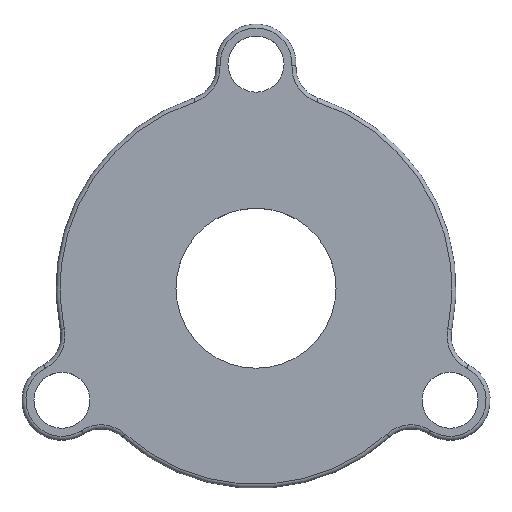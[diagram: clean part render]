
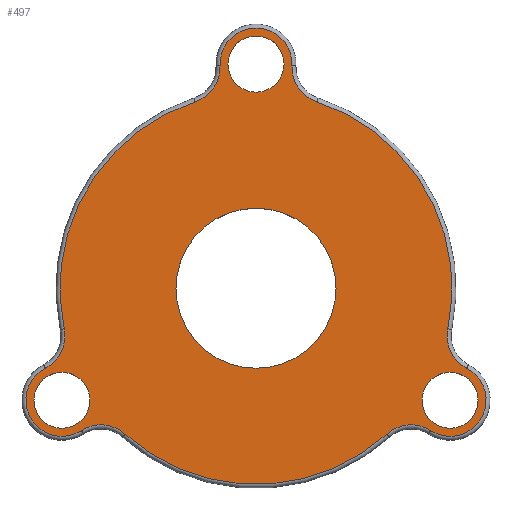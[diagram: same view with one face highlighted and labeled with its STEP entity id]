
A CAD part, top view. The second image highlights one B-rep face of the part: STEP entity #497.
In plain terms, the highlighted planar face has unit normal (0, 0, 1).
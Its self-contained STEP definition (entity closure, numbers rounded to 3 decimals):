
#34=PLANE('',#572);
#75=VERTEX_POINT('',#772);
#77=VERTEX_POINT('',#776);
#78=VERTEX_POINT('',#778);
#81=VERTEX_POINT('',#785);
#82=VERTEX_POINT('',#790);
#85=VERTEX_POINT('',#797);
#86=VERTEX_POINT('',#802);
#89=VERTEX_POINT('',#809);
#90=VERTEX_POINT('',#814);
#93=VERTEX_POINT('',#821);
#94=VERTEX_POINT('',#826);
#97=VERTEX_POINT('',#833);
#98=VERTEX_POINT('',#838);
#107=VERTEX_POINT('',#871);
#108=VERTEX_POINT('',#873);
#109=VERTEX_POINT('',#875);
#121=CIRCLE('',#513,5.);
#123=CIRCLE('',#516,2.25);
#127=CIRCLE('',#521,12.25);
#131=CIRCLE('',#526,2.25);
#133=CIRCLE('',#529,2.25);
#137=CIRCLE('',#534,2.25);
#139=CIRCLE('',#537,2.25);
#143=CIRCLE('',#542,12.25);
#145=CIRCLE('',#545,2.25);
#149=CIRCLE('',#550,2.25);
#151=CIRCLE('',#553,12.25);
#155=CIRCLE('',#558,2.25);
#157=CIRCLE('',#561,2.25);
#163=CIRCLE('',#573,1.75);
#164=CIRCLE('',#574,1.75);
#165=CIRCLE('',#575,1.75);
#177=EDGE_CURVE('',#75,#75,#121,.T.);
#179=EDGE_CURVE('',#77,#78,#123,.T.);
#183=EDGE_CURVE('',#81,#77,#127,.T.);
#187=EDGE_CURVE('',#78,#82,#131,.T.);
#189=EDGE_CURVE('',#85,#81,#133,.T.);
#193=EDGE_CURVE('',#82,#86,#137,.T.);
#195=EDGE_CURVE('',#89,#85,#139,.T.);
#199=EDGE_CURVE('',#86,#90,#143,.T.);
#201=EDGE_CURVE('',#93,#89,#145,.T.);
#205=EDGE_CURVE('',#90,#94,#149,.T.);
#207=EDGE_CURVE('',#97,#93,#151,.T.);
#211=EDGE_CURVE('',#94,#98,#155,.T.);
#213=EDGE_CURVE('',#98,#97,#157,.T.);
#227=EDGE_CURVE('',#107,#107,#163,.T.);
#228=EDGE_CURVE('',#108,#108,#164,.T.);
#229=EDGE_CURVE('',#109,#109,#165,.T.);
#320=ORIENTED_EDGE('',*,*,#177,.T.);
#321=ORIENTED_EDGE('',*,*,#227,.T.);
#322=ORIENTED_EDGE('',*,*,#228,.T.);
#323=ORIENTED_EDGE('',*,*,#229,.T.);
#324=ORIENTED_EDGE('',*,*,#179,.F.);
#325=ORIENTED_EDGE('',*,*,#183,.F.);
#326=ORIENTED_EDGE('',*,*,#189,.F.);
#327=ORIENTED_EDGE('',*,*,#195,.F.);
#328=ORIENTED_EDGE('',*,*,#201,.F.);
#329=ORIENTED_EDGE('',*,*,#207,.F.);
#330=ORIENTED_EDGE('',*,*,#213,.F.);
#331=ORIENTED_EDGE('',*,*,#211,.F.);
#332=ORIENTED_EDGE('',*,*,#205,.F.);
#333=ORIENTED_EDGE('',*,*,#199,.F.);
#334=ORIENTED_EDGE('',*,*,#193,.F.);
#335=ORIENTED_EDGE('',*,*,#187,.F.);
#406=EDGE_LOOP('',(#320));
#407=EDGE_LOOP('',(#321));
#408=EDGE_LOOP('',(#322));
#409=EDGE_LOOP('',(#323));
#410=EDGE_LOOP('',(#324,#325,#326,#327,#328,#329,#330,#331,#332,#333,#334,
#335));
#452=FACE_BOUND('',#406,.T.);
#453=FACE_BOUND('',#407,.T.);
#454=FACE_BOUND('',#408,.T.);
#455=FACE_BOUND('',#409,.T.);
#456=FACE_BOUND('',#410,.T.);
#497=ADVANCED_FACE('',(#452,#453,#454,#455,#456),#34,.T.);
#513=AXIS2_PLACEMENT_3D('',#771,#602,#603);
#516=AXIS2_PLACEMENT_3D('',#777,#607,#608);
#521=AXIS2_PLACEMENT_3D('',#786,#616,#617);
#526=AXIS2_PLACEMENT_3D('',#793,#625,#626);
#529=AXIS2_PLACEMENT_3D('',#798,#630,#631);
#534=AXIS2_PLACEMENT_3D('',#805,#639,#640);
#537=AXIS2_PLACEMENT_3D('',#810,#644,#645);
#542=AXIS2_PLACEMENT_3D('',#817,#653,#654);
#545=AXIS2_PLACEMENT_3D('',#822,#658,#659);
#550=AXIS2_PLACEMENT_3D('',#829,#667,#668);
#553=AXIS2_PLACEMENT_3D('',#834,#672,#673);
#558=AXIS2_PLACEMENT_3D('',#841,#681,#682);
#561=AXIS2_PLACEMENT_3D('',#844,#686,#687);
#572=AXIS2_PLACEMENT_3D('',#869,#715,$);
#573=AXIS2_PLACEMENT_3D('',#870,#716,#717);
#574=AXIS2_PLACEMENT_3D('',#872,#718,#719);
#575=AXIS2_PLACEMENT_3D('',#874,#720,#721);
#602=DIRECTION('',(0.,0.,-1.));
#603=DIRECTION('',(5.,0.,0.));
#607=DIRECTION('',(0.,0.,1.));
#608=DIRECTION('',(1.852,-1.278,0.));
#616=DIRECTION('',(0.,0.,-1.));
#617=DIRECTION('',(-10.609,6.125,0.));
#625=DIRECTION('',(0.,0.,-1.));
#626=DIRECTION('',(0.,2.25,0.));
#630=DIRECTION('',(0.,0.,1.));
#631=DIRECTION('',(2.033,-0.965,0.));
#639=DIRECTION('',(0.,0.,1.));
#640=DIRECTION('',(-1.852,-1.278,0.));
#644=DIRECTION('',(0.,0.,-1.));
#645=DIRECTION('',(-1.949,-1.125,0.));
#653=DIRECTION('',(0.,0.,-1.));
#654=DIRECTION('',(10.609,6.125,0.));
#658=DIRECTION('',(0.,0.,1.));
#659=DIRECTION('',(0.181,2.243,0.));
#667=DIRECTION('',(0.,0.,1.));
#668=DIRECTION('',(-2.033,-0.965,0.));
#672=DIRECTION('',(0.,0.,-1.));
#673=DIRECTION('',(0.,-12.25,0.));
#681=DIRECTION('',(0.,0.,-1.));
#682=DIRECTION('',(1.949,-1.125,0.));
#686=DIRECTION('',(0.,0.,1.));
#687=DIRECTION('',(-0.181,2.243,0.));
#715=DIRECTION('',(0.,0.,1.));
#716=DIRECTION('',(0.,0.,-1.));
#717=DIRECTION('',(1.75,0.,0.));
#718=DIRECTION('',(0.,0.,-1.));
#719=DIRECTION('',(-0.875,1.516,0.));
#720=DIRECTION('',(0.,0.,-1.));
#721=DIRECTION('',(-0.875,-1.516,0.));
#771=CARTESIAN_POINT('',(0.,0.,2.5));
#772=CARTESIAN_POINT('',(5.,0.,2.5));
#776=CARTESIAN_POINT('',(-3.797,11.647,2.5));
#777=CARTESIAN_POINT('',(-4.495,13.786,2.5));
#778=CARTESIAN_POINT('',(-2.247,13.893,2.5));
#785=CARTESIAN_POINT('',(-11.985,-2.535,2.5));
#786=CARTESIAN_POINT('',(0.,0.,2.5));
#790=CARTESIAN_POINT('',(2.247,13.893,2.5));
#793=CARTESIAN_POINT('',(0.,14.,2.5));
#797=CARTESIAN_POINT('',(-13.155,-5.,2.5));
#798=CARTESIAN_POINT('',(-14.186,-3.,2.5));
#802=CARTESIAN_POINT('',(3.797,11.647,2.5));
#805=CARTESIAN_POINT('',(4.495,13.786,2.5));
#809=CARTESIAN_POINT('',(-10.908,-8.893,2.5));
#810=CARTESIAN_POINT('',(-12.124,-7.,2.5));
#814=CARTESIAN_POINT('',(11.985,-2.535,2.5));
#817=CARTESIAN_POINT('',(0.,0.,2.5));
#821=CARTESIAN_POINT('',(-8.188,-9.112,2.5));
#822=CARTESIAN_POINT('',(-9.691,-10.786,2.5));
#826=CARTESIAN_POINT('',(13.155,-5.,2.5));
#829=CARTESIAN_POINT('',(14.186,-3.,2.5));
#833=CARTESIAN_POINT('',(8.188,-9.112,2.5));
#834=CARTESIAN_POINT('',(0.,0.,2.5));
#838=CARTESIAN_POINT('',(10.908,-8.893,2.5));
#841=CARTESIAN_POINT('',(12.124,-7.,2.5));
#844=CARTESIAN_POINT('',(9.691,-10.786,2.5));
#869=CARTESIAN_POINT('',(0.,0.,2.5));
#870=CARTESIAN_POINT('',(0.,14.,2.5));
#871=CARTESIAN_POINT('',(1.75,14.,2.5));
#872=CARTESIAN_POINT('',(-12.124,-7.,2.5));
#873=CARTESIAN_POINT('',(-12.999,-5.484,2.5));
#874=CARTESIAN_POINT('',(12.124,-7.,2.5));
#875=CARTESIAN_POINT('',(11.249,-8.516,2.5));
